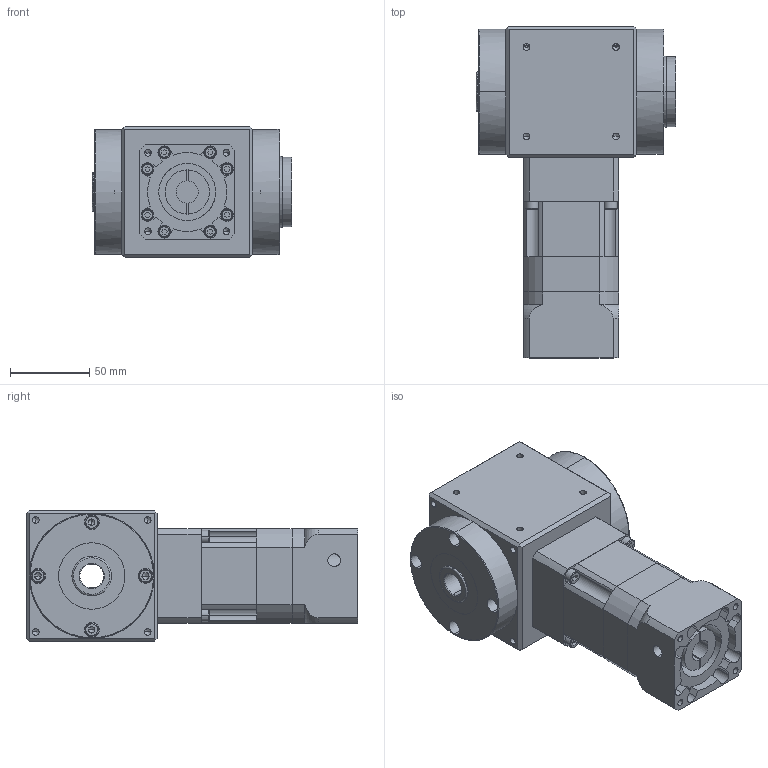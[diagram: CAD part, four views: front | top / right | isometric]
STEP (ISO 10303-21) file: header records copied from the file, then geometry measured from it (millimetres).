
FILE_DESCRIPTION (( 'STEP AP214' ), '1' );
FILE_NAME ('RAM060-L2-XX-F-14-50-70-M5_2019.STEP', '2019-04-09T02:33:14', ( 'Y' ), ( 'NCU' ), 'SwSTEP 2.0', 'SolidWorks 2016', '' );
FILE_SCHEMA (( 'AUTOMOTIVE_DESIGN' ));
Length unit declared in the file: millimetre
Products named in the file (1): RAM060-L2-XX-F-14-50-70-M5_2019
Bounding box: 126 x 209.7 x 83 mm (x, y, z)
Volume: 1108348.6 mm3; surface area: 141012.3 mm2
Topology: 5 solids, 13 shells, 713 faces, 1741 edges, 1076 vertices
Faces by surface type: plane 322, cylinder 253, cone 112, bspline 22, torus 4
Entity records: 22880 total; most frequent: CARTESIAN_POINT 4559, DIRECTION 3607, ORIENTED_EDGE 3338, EDGE_CURVE 1669, AXIS2_PLACEMENT_3D 1340, VERTEX_POINT 1076, VECTOR 927, LINE 927
